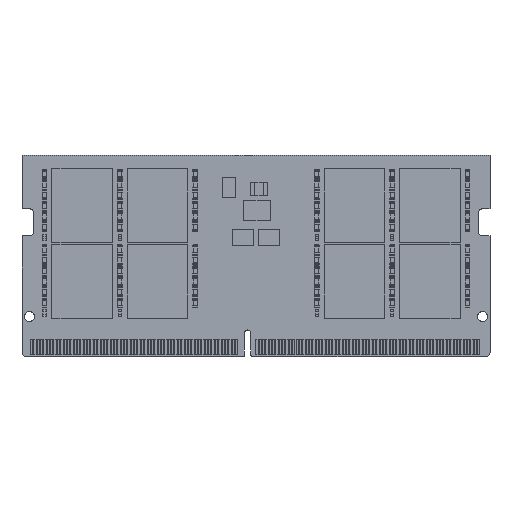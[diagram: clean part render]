
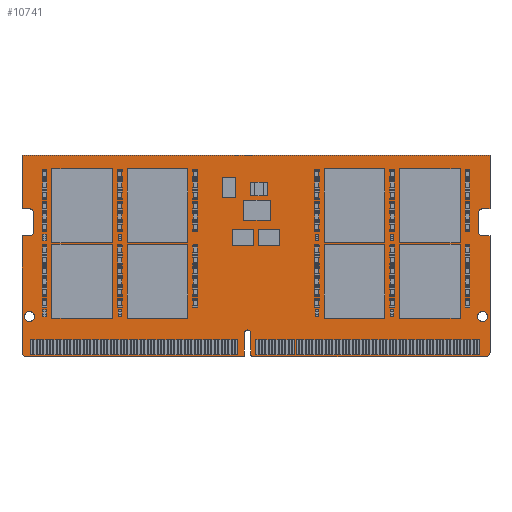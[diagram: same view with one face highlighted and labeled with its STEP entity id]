
A CAD part, top view. The second image highlights one B-rep face of the part: STEP entity #10741.
In plain terms, the highlighted planar face has unit normal (0, 0, 1).
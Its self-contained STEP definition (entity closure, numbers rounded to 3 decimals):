
#10024=CARTESIAN_POINT('',(1.1,6.,0.6));
#10025=DIRECTION('',(0.,0.,-1.));
#10026=DIRECTION('',(-1.,0.,0.));
#10027=AXIS2_PLACEMENT_3D('',#10024,#10025,#10026);
#10032=CARTESIAN_POINT('',(1.1,6.,0.6));
#10033=DIRECTION('',(0.,0.,-1.));
#10034=DIRECTION('',(1.,0.,0.));
#10035=AXIS2_PLACEMENT_3D('',#10032,#10033,#10034);
#10040=CARTESIAN_POINT('',(68.5,6.,0.6));
#10041=DIRECTION('',(0.,0.,-1.));
#10042=DIRECTION('',(-1.,0.,0.));
#10043=AXIS2_PLACEMENT_3D('',#10040,#10041,#10042);
#10048=CARTESIAN_POINT('',(68.5,6.,0.6));
#10049=DIRECTION('',(0.,0.,-1.));
#10050=DIRECTION('',(1.,0.,0.));
#10051=AXIS2_PLACEMENT_3D('',#10048,#10049,#10050);
#10056=CARTESIAN_POINT('',(0.65,0.65,0.6));
#10057=DIRECTION('',(0.,0.,1.));
#10058=DIRECTION('',(-1.,0.,0.));
#10059=AXIS2_PLACEMENT_3D('',#10056,#10057,#10058);
#10064=DIRECTION('',(0.,-1.,0.));
#10065=VECTOR('',#10064,17.35);
#10066=CARTESIAN_POINT('',(0.,18.,0.6));
#10067=LINE('',#10066,#10065);
#10071=DIRECTION('',(-1.,0.,0.));
#10072=VECTOR('',#10071,1.1);
#10073=CARTESIAN_POINT('',(1.1,18.,0.6));
#10074=LINE('',#10073,#10072);
#10078=DIRECTION('',(0.,-1.,0.));
#10079=VECTOR('',#10078,2.7);
#10080=CARTESIAN_POINT('',(1.75,21.35,0.6));
#10081=LINE('',#10080,#10079);
#10085=DIRECTION('',(1.,0.,0.));
#10086=VECTOR('',#10085,1.1);
#10087=CARTESIAN_POINT('',(0.,22.,0.6));
#10088=LINE('',#10087,#10086);
#10092=DIRECTION('',(0.,-1.,0.));
#10093=VECTOR('',#10092,8.);
#10094=CARTESIAN_POINT('',(0.,30.,0.6));
#10095=LINE('',#10094,#10093);
#10099=DIRECTION('',(-1.,0.,0.));
#10100=VECTOR('',#10099,69.6);
#10101=CARTESIAN_POINT('',(69.6,30.,0.6));
#10102=LINE('',#10101,#10100);
#10106=DIRECTION('',(0.,1.,0.));
#10107=VECTOR('',#10106,8.);
#10108=CARTESIAN_POINT('',(69.6,22.,0.6));
#10109=LINE('',#10108,#10107);
#10113=DIRECTION('',(1.,0.,0.));
#10114=VECTOR('',#10113,1.1);
#10115=CARTESIAN_POINT('',(68.5,22.,0.6));
#10116=LINE('',#10115,#10114);
#10120=DIRECTION('',(0.,1.,0.));
#10121=VECTOR('',#10120,2.7);
#10122=CARTESIAN_POINT('',(67.85,18.65,0.6));
#10123=LINE('',#10122,#10121);
#10127=DIRECTION('',(-1.,0.,0.));
#10128=VECTOR('',#10127,1.1);
#10129=CARTESIAN_POINT('',(69.6,18.,0.6));
#10130=LINE('',#10129,#10128);
#10134=DIRECTION('',(0.,1.,0.));
#10135=VECTOR('',#10134,17.35);
#10136=CARTESIAN_POINT('',(69.6,0.65,0.6));
#10137=LINE('',#10136,#10135);
#10141=CARTESIAN_POINT('',(68.95,0.65,0.6));
#10142=DIRECTION('',(0.,0.,1.));
#10143=DIRECTION('',(0.,-1.,0.));
#10144=AXIS2_PLACEMENT_3D('',#10141,#10142,#10143);
#10149=DIRECTION('',(1.,0.,0.));
#10150=VECTOR('',#10149,34.65);
#10151=CARTESIAN_POINT('',(34.3,0.,0.6));
#10152=LINE('',#10151,#10150);
#10156=CARTESIAN_POINT('',(34.3,0.25,0.6));
#10157=DIRECTION('',(0.,0.,1.));
#10158=DIRECTION('',(-1.,0.,0.));
#10159=AXIS2_PLACEMENT_3D('',#10156,#10157,#10158);
#10164=DIRECTION('',(0.,-1.,0.));
#10165=VECTOR('',#10164,3.25);
#10166=CARTESIAN_POINT('',(34.05,3.5,0.6));
#10167=LINE('',#10166,#10165);
#10171=CARTESIAN_POINT('',(33.55,3.5,0.6));
#10172=DIRECTION('',(0.,0.,-1.));
#10173=DIRECTION('',(-1.,0.,0.));
#10174=AXIS2_PLACEMENT_3D('',#10171,#10172,#10173);
#10179=DIRECTION('',(0.,1.,0.));
#10180=VECTOR('',#10179,3.25);
#10181=CARTESIAN_POINT('',(33.05,0.25,0.6));
#10182=LINE('',#10181,#10180);
#10186=CARTESIAN_POINT('',(32.8,0.25,0.6));
#10187=DIRECTION('',(0.,0.,1.));
#10188=DIRECTION('',(0.,-1.,0.));
#10189=AXIS2_PLACEMENT_3D('',#10186,#10187,#10188);
#10194=DIRECTION('',(1.,0.,0.));
#10195=VECTOR('',#10194,32.15);
#10196=CARTESIAN_POINT('',(0.65,0.,0.6));
#10197=LINE('',#10196,#10195);
#10244=CARTESIAN_POINT('',(1.1,18.65,0.6));
#10245=DIRECTION('',(0.,0.,-1.));
#10246=DIRECTION('',(1.,0.,0.));
#10247=AXIS2_PLACEMENT_3D('',#10244,#10245,#10246);
#10274=CARTESIAN_POINT('',(1.1,21.35,0.6));
#10275=DIRECTION('',(0.,0.,-1.));
#10276=DIRECTION('',(0.,1.,0.));
#10277=AXIS2_PLACEMENT_3D('',#10274,#10275,#10276);
#10332=CARTESIAN_POINT('',(68.5,21.35,0.6));
#10333=DIRECTION('',(0.,0.,-1.));
#10334=DIRECTION('',(-1.,0.,0.));
#10335=AXIS2_PLACEMENT_3D('',#10332,#10333,#10334);
#10362=CARTESIAN_POINT('',(68.5,18.65,0.6));
#10363=DIRECTION('',(0.,0.,-1.));
#10364=DIRECTION('',(0.,-1.,0.));
#10365=AXIS2_PLACEMENT_3D('',#10362,#10363,#10364);
#10467=CARTESIAN_POINT('',(69.6,30.,0.6));
#10468=CARTESIAN_POINT('',(0.,30.,0.6));
#10469=VERTEX_POINT('',#10467);
#10470=VERTEX_POINT('',#10468);
#10471=CARTESIAN_POINT('',(0.,22.,0.6));
#10472=VERTEX_POINT('',#10471);
#10473=CARTESIAN_POINT('',(32.8,0.,0.6));
#10474=CARTESIAN_POINT('',(33.05,0.25,0.6));
#10475=VERTEX_POINT('',#10473);
#10476=VERTEX_POINT('',#10474);
#10477=CARTESIAN_POINT('',(33.05,3.5,0.6));
#10478=VERTEX_POINT('',#10477);
#10479=CARTESIAN_POINT('',(34.05,3.5,0.6));
#10480=VERTEX_POINT('',#10479);
#10481=CARTESIAN_POINT('',(34.05,0.25,0.6));
#10482=VERTEX_POINT('',#10481);
#10483=CARTESIAN_POINT('',(34.3,0.,0.6));
#10484=VERTEX_POINT('',#10483);
#10485=CARTESIAN_POINT('',(69.6,22.,0.6));
#10486=VERTEX_POINT('',#10485);
#10488=CARTESIAN_POINT('',(0.,18.,0.6));
#10490=VERTEX_POINT('',#10488);
#10492=CARTESIAN_POINT('',(69.6,18.,0.6));
#10494=VERTEX_POINT('',#10492);
#10496=CARTESIAN_POINT('',(1.75,21.35,0.6));
#10498=VERTEX_POINT('',#10496);
#10500=CARTESIAN_POINT('',(1.1,22.,0.6));
#10502=VERTEX_POINT('',#10500);
#10504=CARTESIAN_POINT('',(1.1,18.,0.6));
#10506=VERTEX_POINT('',#10504);
#10508=CARTESIAN_POINT('',(1.75,18.65,0.6));
#10510=VERTEX_POINT('',#10508);
#10512=CARTESIAN_POINT('',(68.5,22.,0.6));
#10514=VERTEX_POINT('',#10512);
#10516=CARTESIAN_POINT('',(67.85,21.35,0.6));
#10518=VERTEX_POINT('',#10516);
#10520=CARTESIAN_POINT('',(67.85,18.65,0.6));
#10522=VERTEX_POINT('',#10520);
#10524=CARTESIAN_POINT('',(68.5,18.,0.6));
#10526=VERTEX_POINT('',#10524);
#10531=CARTESIAN_POINT('',(0.,0.65,0.6));
#10532=VERTEX_POINT('',#10531);
#10533=CARTESIAN_POINT('',(0.65,0.,0.6));
#10534=VERTEX_POINT('',#10533);
#10539=CARTESIAN_POINT('',(68.95,0.,0.6));
#10540=VERTEX_POINT('',#10539);
#10541=CARTESIAN_POINT('',(69.6,0.65,0.6));
#10542=VERTEX_POINT('',#10541);
#10551=CARTESIAN_POINT('',(0.35,6.,0.6));
#10552=CARTESIAN_POINT('',(1.85,6.,0.6));
#10553=VERTEX_POINT('',#10551);
#10554=VERTEX_POINT('',#10552);
#10555=CARTESIAN_POINT('',(67.75,6.,0.6));
#10556=CARTESIAN_POINT('',(69.25,6.,0.6));
#10557=VERTEX_POINT('',#10555);
#10558=VERTEX_POINT('',#10556);
#10676=CARTESIAN_POINT('',(0.,0.,0.6));
#10677=DIRECTION('',(0.,0.,1.));
#10678=DIRECTION('',(1.,0.,0.));
#10679=AXIS2_PLACEMENT_3D('',#10676,#10677,#10678);
#10680=PLANE('',#10679);
#10682=ORIENTED_EDGE('',*,*,#10681,.F.);
#10684=ORIENTED_EDGE('',*,*,#10683,.F.);
#10686=ORIENTED_EDGE('',*,*,#10685,.F.);
#10688=ORIENTED_EDGE('',*,*,#10687,.F.);
#10690=ORIENTED_EDGE('',*,*,#10689,.F.);
#10692=ORIENTED_EDGE('',*,*,#10691,.F.);
#10694=ORIENTED_EDGE('',*,*,#10693,.F.);
#10696=ORIENTED_EDGE('',*,*,#10695,.F.);
#10698=ORIENTED_EDGE('',*,*,#10697,.F.);
#10700=ORIENTED_EDGE('',*,*,#10699,.F.);
#10702=ORIENTED_EDGE('',*,*,#10701,.F.);
#10704=ORIENTED_EDGE('',*,*,#10703,.F.);
#10706=ORIENTED_EDGE('',*,*,#10705,.F.);
#10708=ORIENTED_EDGE('',*,*,#10707,.F.);
#10710=ORIENTED_EDGE('',*,*,#10709,.F.);
#10712=ORIENTED_EDGE('',*,*,#10711,.F.);
#10714=ORIENTED_EDGE('',*,*,#10713,.F.);
#10716=ORIENTED_EDGE('',*,*,#10715,.F.);
#10718=ORIENTED_EDGE('',*,*,#10717,.F.);
#10720=ORIENTED_EDGE('',*,*,#10719,.F.);
#10722=ORIENTED_EDGE('',*,*,#10721,.F.);
#10724=ORIENTED_EDGE('',*,*,#10723,.F.);
#10726=ORIENTED_EDGE('',*,*,#10725,.F.);
#10728=ORIENTED_EDGE('',*,*,#10727,.F.);
#10729=EDGE_LOOP('',(#10682,#10684,#10686,#10688,#10690,#10692,#10694,#10696,
#10698,#10700,#10702,#10704,#10706,#10708,#10710,#10712,#10714,#10716,#10718,
#10720,#10722,#10724,#10726,#10728));
#10730=FACE_OUTER_BOUND('',#10729,.F.);
#10732=ORIENTED_EDGE('',*,*,#10731,.F.);
#10734=ORIENTED_EDGE('',*,*,#10733,.F.);
#10735=EDGE_LOOP('',(#10732,#10734));
#10736=FACE_BOUND('',#10735,.F.);
#10737=ORIENTED_EDGE('',*,*,#10642,.F.);
#10738=ORIENTED_EDGE('',*,*,#10663,.F.);
#10739=EDGE_LOOP('',(#10737,#10738));
#10740=FACE_BOUND('',#10739,.F.);
#10028=CIRCLE('',#10027,0.75);
#10036=CIRCLE('',#10035,0.75);
#10044=CIRCLE('',#10043,0.75);
#10052=CIRCLE('',#10051,0.75);
#10060=CIRCLE('',#10059,0.65);
#10145=CIRCLE('',#10144,0.65);
#10160=CIRCLE('',#10159,0.25);
#10175=CIRCLE('',#10174,0.5);
#10190=CIRCLE('',#10189,0.25);
#10248=CIRCLE('',#10247,0.65);
#10278=CIRCLE('',#10277,0.65);
#10336=CIRCLE('',#10335,0.65);
#10366=CIRCLE('',#10365,0.65);
#10642=EDGE_CURVE('',#10553,#10554,#10028,.T.);
#10663=EDGE_CURVE('',#10554,#10553,#10036,.T.);
#10681=EDGE_CURVE('',#10532,#10534,#10060,.T.);
#10683=EDGE_CURVE('',#10490,#10532,#10067,.T.);
#10685=EDGE_CURVE('',#10506,#10490,#10074,.T.);
#10687=EDGE_CURVE('',#10510,#10506,#10248,.T.);
#10689=EDGE_CURVE('',#10498,#10510,#10081,.T.);
#10691=EDGE_CURVE('',#10502,#10498,#10278,.T.);
#10693=EDGE_CURVE('',#10472,#10502,#10088,.T.);
#10695=EDGE_CURVE('',#10470,#10472,#10095,.T.);
#10697=EDGE_CURVE('',#10469,#10470,#10102,.T.);
#10699=EDGE_CURVE('',#10486,#10469,#10109,.T.);
#10701=EDGE_CURVE('',#10514,#10486,#10116,.T.);
#10703=EDGE_CURVE('',#10518,#10514,#10336,.T.);
#10705=EDGE_CURVE('',#10522,#10518,#10123,.T.);
#10707=EDGE_CURVE('',#10526,#10522,#10366,.T.);
#10709=EDGE_CURVE('',#10494,#10526,#10130,.T.);
#10711=EDGE_CURVE('',#10542,#10494,#10137,.T.);
#10713=EDGE_CURVE('',#10540,#10542,#10145,.T.);
#10715=EDGE_CURVE('',#10484,#10540,#10152,.T.);
#10717=EDGE_CURVE('',#10482,#10484,#10160,.T.);
#10719=EDGE_CURVE('',#10480,#10482,#10167,.T.);
#10721=EDGE_CURVE('',#10478,#10480,#10175,.T.);
#10723=EDGE_CURVE('',#10476,#10478,#10182,.T.);
#10725=EDGE_CURVE('',#10475,#10476,#10190,.T.);
#10727=EDGE_CURVE('',#10534,#10475,#10197,.T.);
#10731=EDGE_CURVE('',#10557,#10558,#10044,.T.);
#10733=EDGE_CURVE('',#10558,#10557,#10052,.T.);
#10741=ADVANCED_FACE('',(#10730,#10736,#10740),#10680,.T.);
